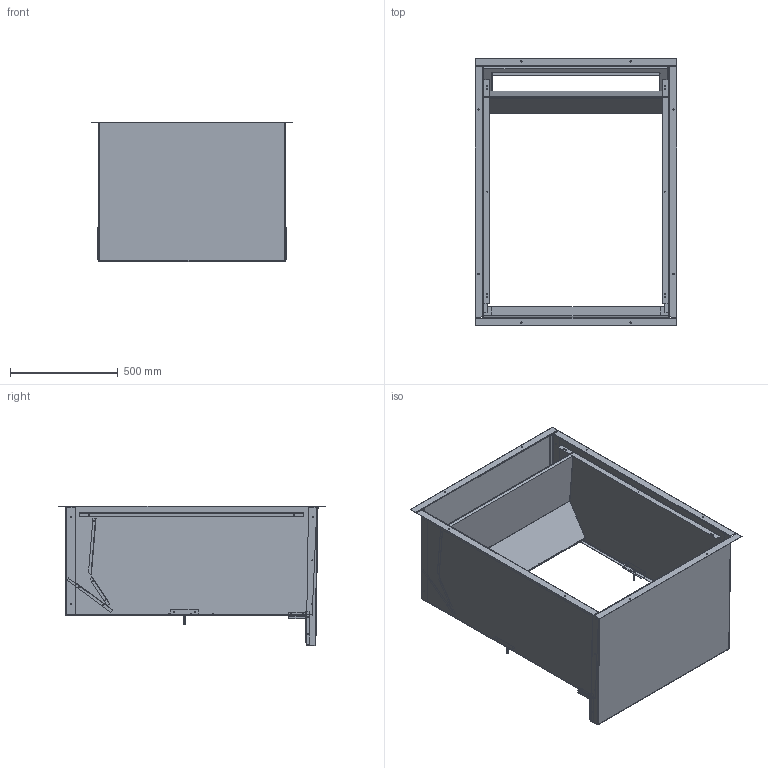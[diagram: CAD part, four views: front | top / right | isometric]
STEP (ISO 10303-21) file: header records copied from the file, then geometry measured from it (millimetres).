
FILE_DESCRIPTION (( 'STEP AP203' ), '1' );
FILE_NAME ('QWS42A-20.STEP', '2014-03-17T15:44:29', ( 'generic' ), ( 'Hewlett-Packard Company' ), 'SwSTEP 2.0', 'SolidWorks 2014', '' );
FILE_SCHEMA (( 'CONFIG_CONTROL_DESIGN' ));
Length unit declared in the file: inch
Products named in the file (12): 110-132_no dimples; 136-450; 104-1060; 110-133; 1012-036; 110-131; 136-449; 110-134; QWS42A-20; 130-120; 104-988; 120-431
Assembly tree (14 placements, depth 2):
  QWS42A-20
    110-133
    110-131
    110-134
    130-120
    104-988  x2
    120-431
    110-132_no dimples
    136-450
    104-1060  x2
    1012-036  x2
    136-449
Bounding box: 937.36 x 1244.68 x 649.36 mm (x, y, z)
Volume: 4531271 mm3; surface area: 6456315.6 mm2
Topology: 14 solids, 14 shells, 1035 faces, 2421 edges, 1396 vertices
Faces by surface type: plane 418, cylinder 347, cone 236, bspline 34
Entity records: 27449 total; most frequent: CARTESIAN_POINT 5953, DIRECTION 4267, ORIENTED_EDGE 4076, EDGE_CURVE 2038, AXIS2_PLACEMENT_3D 1539, LINE 1189, VECTOR 1189, VERTEX_POINT 1187
